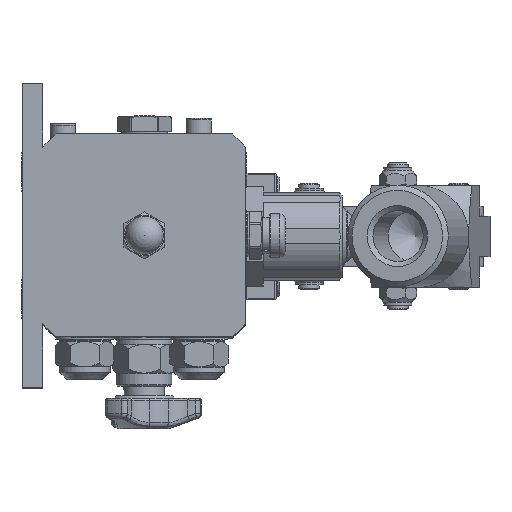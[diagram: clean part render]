
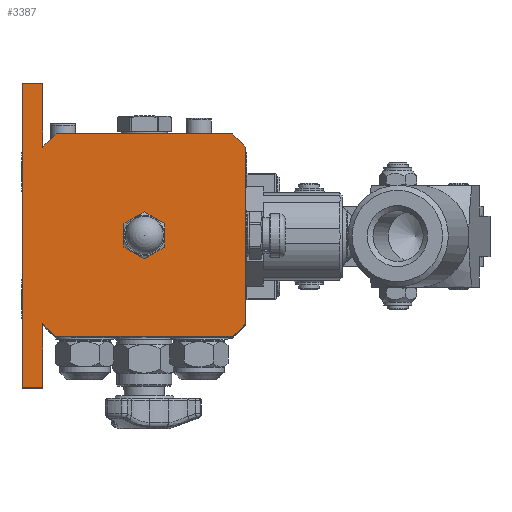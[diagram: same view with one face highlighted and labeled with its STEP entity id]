
A CAD part, top view. The second image highlights one B-rep face of the part: STEP entity #3387.
In plain terms, the highlighted planar face has unit normal (0, 0, 1).
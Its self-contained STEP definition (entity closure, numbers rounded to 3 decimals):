
#2664=CARTESIAN_POINT('',(47.,40.,260.0));
#2665=VERTEX_POINT('',#2664);
#2666=CARTESIAN_POINT('',(40.,40.,260.0));
#2667=DIRECTION('',(0.0,0.0,-1.0));
#2668=DIRECTION('',(-1.0,0.0,0.0));
#2669=AXIS2_PLACEMENT_3D('',#2666,#2667,#2668);
#2670=CIRCLE('',#2669,7.);
#2671=EDGE_CURVE('',#2665,#2665,#2670,.T.);
#3076=CARTESIAN_POINT('',(5.229,0.,260.0));
#3077=VERTEX_POINT('',#3076);
#3084=CARTESIAN_POINT('',(0.,5.229,260.0));
#3085=VERTEX_POINT('',#3084);
#3086=CARTESIAN_POINT('',(40.,40.,260.0));
#3087=DIRECTION('',(0.0,0.0,1.0));
#3088=DIRECTION('',(1.0,0.0,0.0));
#3089=AXIS2_PLACEMENT_3D('',#3086,#3087,#3088);
#3090=CIRCLE('',#3089,53.0);
#3091=EDGE_CURVE('',#3085,#3077,#3090,.T.);
#3118=CARTESIAN_POINT('',(0.,74.771,260.0));
#3119=VERTEX_POINT('',#3118);
#3126=CARTESIAN_POINT('',(5.229,80.,260.0));
#3127=VERTEX_POINT('',#3126);
#3128=CARTESIAN_POINT('',(40.,40.,260.0));
#3129=DIRECTION('',(0.0,0.0,1.0));
#3130=DIRECTION('',(1.0,0.0,0.0));
#3131=AXIS2_PLACEMENT_3D('',#3128,#3129,#3130);
#3132=CIRCLE('',#3131,53.0);
#3133=EDGE_CURVE('',#3127,#3119,#3132,.T.);
#3160=CARTESIAN_POINT('',(74.771,80.,260.0));
#3161=VERTEX_POINT('',#3160);
#3168=CARTESIAN_POINT('',(80.,74.771,260.0));
#3169=VERTEX_POINT('',#3168);
#3170=CARTESIAN_POINT('',(40.,40.,260.0));
#3171=DIRECTION('',(0.0,0.0,1.0));
#3172=DIRECTION('',(1.0,0.0,0.0));
#3173=AXIS2_PLACEMENT_3D('',#3170,#3171,#3172);
#3174=CIRCLE('',#3173,53.0);
#3175=EDGE_CURVE('',#3169,#3161,#3174,.T.);
#3202=CARTESIAN_POINT('',(80.,5.229,260.0));
#3203=VERTEX_POINT('',#3202);
#3210=CARTESIAN_POINT('',(74.771,0.,260.0));
#3211=VERTEX_POINT('',#3210);
#3212=CARTESIAN_POINT('',(40.,40.,260.0));
#3213=DIRECTION('',(0.0,0.0,1.0));
#3214=DIRECTION('',(1.0,0.0,0.0));
#3215=AXIS2_PLACEMENT_3D('',#3212,#3213,#3214);
#3216=CIRCLE('',#3215,53.0);
#3217=EDGE_CURVE('',#3211,#3203,#3216,.T.);
#3263=CARTESIAN_POINT('',(80.,74.771,260.0));
#3264=DIRECTION('',(0.0,-1.0,0.0));
#3265=VECTOR('',#3264,69.541);
#3266=LINE('',#3263,#3265);
#3267=EDGE_CURVE('',#3169,#3203,#3266,.T.);
#3318=CARTESIAN_POINT('',(5.229,80.,260.0));
#3319=DIRECTION('',(1.0,0.0,0.0));
#3320=VECTOR('',#3319,69.541);
#3321=LINE('',#3318,#3320);
#3322=EDGE_CURVE('',#3127,#3161,#3321,.T.);
#3327=CARTESIAN_POINT('',(40.,40.,260.0));
#3328=DIRECTION('',(0.0,0.0,-1.0));
#3329=DIRECTION('',(0.0,-1.0,0.0));
#3330=AXIS2_PLACEMENT_3D('',#3327,#3328,#3329);
#3331=PLANE('',#3330);
#3332=ORIENTED_EDGE('',*,*,#3217,.T.);
#3333=ORIENTED_EDGE('',*,*,#3267,.F.);
#3334=ORIENTED_EDGE('',*,*,#3175,.T.);
#3335=ORIENTED_EDGE('',*,*,#3322,.F.);
#3336=ORIENTED_EDGE('',*,*,#3133,.T.);
#3337=CARTESIAN_POINT('',(0.,100.,260.0));
#3338=VERTEX_POINT('',#3337);
#3339=CARTESIAN_POINT('',(0.,74.771,260.0));
#3340=DIRECTION('',(0.0,1.0,0.0));
#3341=VECTOR('',#3340,25.229);
#3342=LINE('',#3339,#3341);
#3343=EDGE_CURVE('',#3119,#3338,#3342,.T.);
#3344=ORIENTED_EDGE('',*,*,#3343,.T.);
#3345=CARTESIAN_POINT('',(-8.,100.,260.0));
#3346=VERTEX_POINT('',#3345);
#3347=CARTESIAN_POINT('',(0.,100.,260.0));
#3348=DIRECTION('',(-1.0,0.0,0.0));
#3349=VECTOR('',#3348,8.0);
#3350=LINE('',#3347,#3349);
#3351=EDGE_CURVE('',#3338,#3346,#3350,.T.);
#3352=ORIENTED_EDGE('',*,*,#3351,.T.);
#3353=CARTESIAN_POINT('',(-8.,-20.,260.0));
#3354=VERTEX_POINT('',#3353);
#3355=CARTESIAN_POINT('',(-8.,100.,260.0));
#3356=DIRECTION('',(0.0,-1.0,0.0));
#3357=VECTOR('',#3356,120.0);
#3358=LINE('',#3355,#3357);
#3359=EDGE_CURVE('',#3346,#3354,#3358,.T.);
#3360=ORIENTED_EDGE('',*,*,#3359,.T.);
#3361=CARTESIAN_POINT('',(0.,-20.,260.0));
#3362=VERTEX_POINT('',#3361);
#3363=CARTESIAN_POINT('',(0.,-20.,260.0));
#3364=DIRECTION('',(-1.0,0.0,0.0));
#3365=VECTOR('',#3364,8.0);
#3366=LINE('',#3363,#3365);
#3367=EDGE_CURVE('',#3362,#3354,#3366,.T.);
#3368=ORIENTED_EDGE('',*,*,#3367,.F.);
#3369=CARTESIAN_POINT('',(0.,-20.,260.0));
#3370=DIRECTION('',(0.0,1.0,0.0));
#3371=VECTOR('',#3370,25.229);
#3372=LINE('',#3369,#3371);
#3373=EDGE_CURVE('',#3362,#3085,#3372,.T.);
#3374=ORIENTED_EDGE('',*,*,#3373,.T.);
#3375=ORIENTED_EDGE('',*,*,#3091,.T.);
#3376=CARTESIAN_POINT('',(74.771,0.,260.0));
#3377=DIRECTION('',(-1.0,0.0,0.0));
#3378=VECTOR('',#3377,69.541);
#3379=LINE('',#3376,#3378);
#3380=EDGE_CURVE('',#3211,#3077,#3379,.T.);
#3381=ORIENTED_EDGE('',*,*,#3380,.F.);
#3382=EDGE_LOOP('',(#3332,#3333,#3334,#3335,#3336,#3344,#3352,#3360,#3368,#3374,#3375,#3381));
#3383=FACE_OUTER_BOUND('',#3382,.T.);
#3384=ORIENTED_EDGE('',*,*,#2671,.T.);
#3385=EDGE_LOOP('',(#3384));
#3386=FACE_BOUND('',#3385,.T.);
#3387=ADVANCED_FACE('',(#3383,#3386),#3331,.F.);
